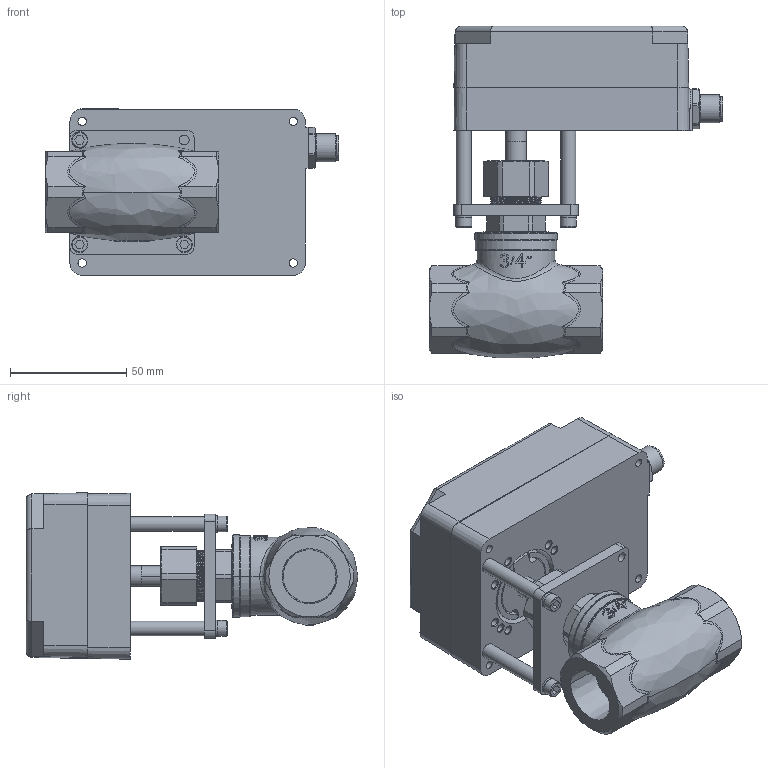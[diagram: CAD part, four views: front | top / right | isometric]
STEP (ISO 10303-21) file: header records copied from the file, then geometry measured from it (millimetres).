
FILE_DESCRIPTION (( 'STEP AP203' ), '1' );
FILE_NAME ('#M-Series Assembly w. Sharpe 40276-075 (Client Copy).STEP', '2020-09-02T15:54:20', ( 'Technician #5' ), ( '' ), 'SwSTEP 2.0', 'SolidWorks 2020', '' );
FILE_SCHEMA (( 'CONFIG_CONTROL_DESIGN' ));
Length unit declared in the file: inch
Products named in the file (10): #M-Series Assembly w. Sharpe 40276-075 (Client Copy); BSNPLN-Q216; 1106B-cast___; MtgKit (Stepped 1.250); Turck-Receptacle; 1107-cast___; 1174B Valve lever; 40276-075; 1110-1 Drive Wheel (thicker top); Brass Washer Stamped
Assembly tree (9 placements, depth 2):
  #M-Series Assembly w. Sharpe 40276-075 (Client Copy)
    1106B-cast___
    1107-cast___
    1110-1 Drive Wheel (thicker top)
    Brass Washer Stamped
    BSNPLN-Q216
    Turck-Receptacle
    1174B Valve lever
    MtgKit (Stepped 1.250)
    40276-075
Bounding box: 126 x 142.63 x 71.52 mm (x, y, z)
Volume: 128043 mm3; surface area: 103750.8 mm2
Topology: 9 solids, 23 shells, 835 faces, 2066 edges, 1337 vertices
Faces by surface type: plane 402, cylinder 200, cone 148, bspline 52, torus 33
Full cylindrical faces by diameter (mm): 0.762 x5, 1.016 x5, 2.458 x2, 3.155 x1, 3.175 x1, 3.568 x14, 3.569 x7, 4.216 x4, 4.914 x4, 5.08 x1, 5.41 x4, 6.35 x4, 6.858 x3, 6.985 x3, 7.366 x2, 8.3 x1, 8.839 x1, 9.5 x1, 9.55 x1, 9.9 x1, 10 x1, 10.5 x1, 11 x1, 11.176 x1, 11.51 x1, 12 x1, 12.776 x1, 15.875 x1, 18.999 x1, 21.996 x1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
Entity records: 35114 total; most frequent: CARTESIAN_POINT 16694, ORIENTED_EDGE 3750, DIRECTION 2985, EDGE_CURVE 1903, VERTEX_POINT 1300, AXIS2_PLACEMENT_3D 1247, EDGE_LOOP 1078, FACE_OUTER_BOUND 918
